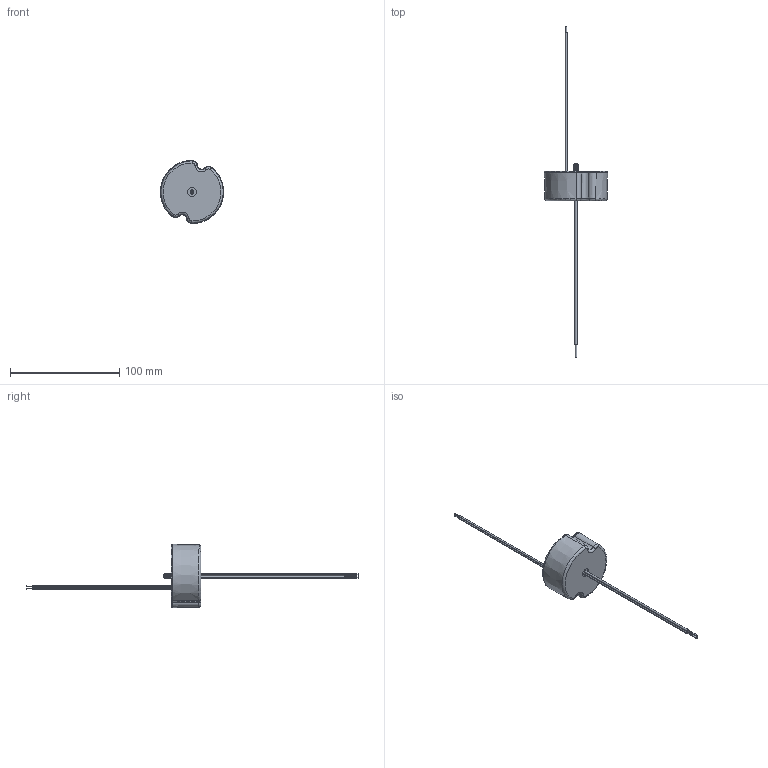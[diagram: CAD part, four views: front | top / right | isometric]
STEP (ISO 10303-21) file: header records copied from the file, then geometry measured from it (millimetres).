
FILE_DESCRIPTION((''),'2;1');
FILE_NAME('ROUND_CYLINDER-230303_ASM','2025-08-13T14:45:00',('Administrator'),(''),'CREO PARAMETRIC BY PTC INC, 2020053','CREO PARAMETRIC BY PTC INC, 2020053','');
FILE_SCHEMA(('CONFIG_CONTROL_DESIGN','SHAPE_APPEARANCE_LAYERS_GROUPS'));
Length unit declared in the file: inch
Products named in the file (25): EXP13638_BOTTOM_7_1; EXP13638_TOP_1_11_1; LUOZHU-M4_6_1_3; HUXIANQUAN_6_1_1; SHUCHUXIAN_3_1_2_1; TIAOGUANGXIAN_1_1_1; PRT0020_2_1_1; PRT0021_2_1_1; ASM0033_ASM_2_1_ASM_1_ASM; ASM0032_ASM_2_1_ASM_1_ASM; PRT0022_1_1_1; ASM0035_ASM_1_1_ASM_1_ASM; ASM0034_ASM_2_1_ASM_1_ASM; PRT0023_1_1_2; ASM0037_ASM_1_1_ASM_1_ASM; ASM0036_ASM_1_1_ASM_1_ASM; ASM0031_ASM_2_1_ASM_1_ASM; ASM0030_ASM_2_1_ASM_1_ASM; PRT0024_1_1_2; ASM0039_ASM_1_1_ASM_1_ASM; _ROUND_CYLINDER_DRIVER_XIAO_B_1_ASM; M3_LUODING_3_1_1; EXP13638_CASE_ASM_5_ASM_1_ASM; ROUND_CYLINDER-20200223_ASM_1_ASM; ROUND_CYLINDER-230303_ASM
Assembly tree (26 placements, depth 8):
  ROUND_CYLINDER-230303_ASM
    ROUND_CYLINDER-20200223_ASM_1_ASM
      EXP13638_CASE_ASM_5_ASM_1_ASM
        EXP13638_BOTTOM_7_1
        EXP13638_TOP_1_11_1
        LUOZHU-M4_6_1_3
        HUXIANQUAN_6_1_1
        SHUCHUXIAN_3_1_2_1  x2
        TIAOGUANGXIAN_1_1_1  x2
        ASM0030_ASM_2_1_ASM_1_ASM
          ASM0031_ASM_2_1_ASM_1_ASM
            PRT0020_2_1_1
            ASM0032_ASM_2_1_ASM_1_ASM
              ASM0033_ASM_2_1_ASM_1_ASM
                PRT0021_2_1_1
            ASM0034_ASM_2_1_ASM_1_ASM
              ASM0035_ASM_1_1_ASM_1_ASM
                PRT0022_1_1_1
            ASM0036_ASM_1_1_ASM_1_ASM
              ASM0037_ASM_1_1_ASM_1_ASM
                PRT0023_1_1_2
        _ROUND_CYLINDER_DRIVER_XIAO_B_1_ASM
          ASM0039_ASM_1_1_ASM_1_ASM
            PRT0024_1_1_2
        M3_LUODING_3_1_1
Bounding box: 57.9 x 304 x 57.9 mm (x, y, z)
Volume: 17262.6 mm3; surface area: 31692.8 mm2
Topology: 14 solids, 14 shells, 725 faces, 2106 edges, 1419 vertices
Faces by surface type: plane 327, cylinder 286, torus 60, bspline 34, cone 18
Entity records: 33767 total; most frequent: CARTESIAN_POINT 9084, ORIENTED_EDGE 4164, DIRECTION 4163, EDGE_CURVE 2082, AXIS2_PLACEMENT_3D 1521, VERTEX_POINT 1403, VECTOR 1121, LINE 1121
